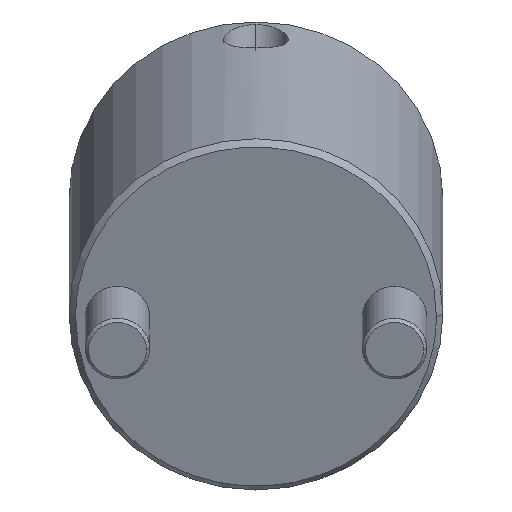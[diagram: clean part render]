
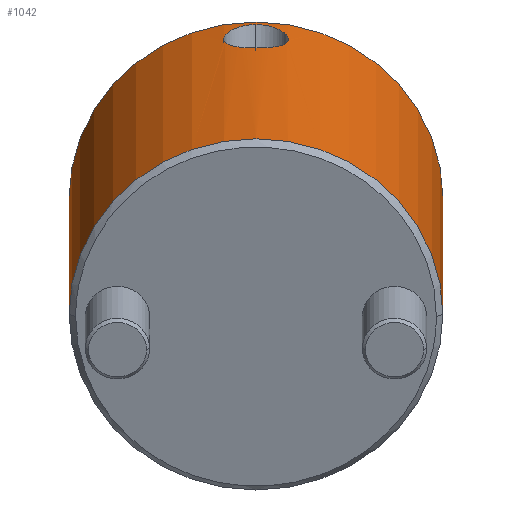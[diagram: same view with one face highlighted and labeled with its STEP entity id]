
A CAD part, front view. The second image highlights one B-rep face of the part: STEP entity #1042.
In plain terms, the highlighted cylindrical face has radius 29 mm (diameter 58 mm), a partial arc.
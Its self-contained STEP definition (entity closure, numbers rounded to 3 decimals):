
#772=CARTESIAN_POINT('Vertex',(0.,29.,1.)) ;
#775=CARTESIAN_POINT('Axis2P3D Location',(0.,0.,1.)) ;
#779=CARTESIAN_POINT('Vertex',(0.,-29.,1.)) ;
#931=CARTESIAN_POINT('Axis2P3D Location',(0.,0.,-2.75)) ;
#936=CARTESIAN_POINT('Line Origine',(0.,29.,-2.75)) ;
#940=CARTESIAN_POINT('Vertex',(0.,29.,54.)) ;
#943=CARTESIAN_POINT('Axis2P3D Location',(0.,0.,54.)) ;
#947=CARTESIAN_POINT('Vertex',(0.,-29.,54.)) ;
#950=CARTESIAN_POINT('Line Origine',(0.,-29.,-2.75)) ;
#962=CARTESIAN_POINT('Control Point',(29.,0.,52.84)) ;
#963=CARTESIAN_POINT('Control Point',(29.,0.41,52.84)) ;
#964=CARTESIAN_POINT('Control Point',(28.993,0.818,52.794)) ;
#965=CARTESIAN_POINT('Control Point',(28.978,1.227,52.698)) ;
#966=CARTESIAN_POINT('Control Point',(28.941,1.922,52.449)) ;
#967=CARTESIAN_POINT('Control Point',(28.888,2.571,52.061)) ;
#968=CARTESIAN_POINT('Control Point',(28.862,2.839,51.869)) ;
#969=CARTESIAN_POINT('Control Point',(28.799,3.437,51.363)) ;
#970=CARTESIAN_POINT('Control Point',(28.732,3.948,50.737)) ;
#971=CARTESIAN_POINT('Control Point',(28.695,4.202,50.348)) ;
#972=CARTESIAN_POINT('Control Point',(28.645,4.527,49.719)) ;
#973=CARTESIAN_POINT('Control Point',(28.608,4.752,49.055)) ;
#974=CARTESIAN_POINT('Control Point',(28.597,4.816,48.831)) ;
#975=CARTESIAN_POINT('Control Point',(28.575,4.947,48.265)) ;
#976=CARTESIAN_POINT('Control Point',(28.565,5.007,47.682)) ;
#977=CARTESIAN_POINT('Control Point',(28.563,5.016,47.333)) ;
#978=CARTESIAN_POINT('Control Point',(28.569,4.98,46.642)) ;
#979=CARTESIAN_POINT('Control Point',(28.593,4.841,45.975)) ;
#980=CARTESIAN_POINT('Control Point',(28.609,4.747,45.653)) ;
#981=CARTESIAN_POINT('Control Point',(28.642,4.548,45.132)) ;
#982=CARTESIAN_POINT('Control Point',(28.682,4.285,44.647)) ;
#983=CARTESIAN_POINT('Control Point',(28.699,4.17,44.461)) ;
#984=CARTESIAN_POINT('Control Point',(28.735,3.921,44.101)) ;
#985=CARTESIAN_POINT('Control Point',(28.772,3.633,43.771)) ;
#986=CARTESIAN_POINT('Control Point',(28.791,3.481,43.613)) ;
#987=CARTESIAN_POINT('Control Point',(28.838,3.081,43.245)) ;
#988=CARTESIAN_POINT('Control Point',(28.882,2.635,42.935)) ;
#989=CARTESIAN_POINT('Control Point',(28.907,2.351,42.77)) ;
#990=CARTESIAN_POINT('Control Point',(28.953,1.732,42.478)) ;
#991=CARTESIAN_POINT('Control Point',(28.983,1.071,42.295)) ;
#992=CARTESIAN_POINT('Control Point',(28.994,0.716,42.231)) ;
#993=CARTESIAN_POINT('Control Point',(29.,0.359,42.199)) ;
#994=CARTESIAN_POINT('Control Point',(29.,0.,42.199)) ;
#995=CARTESIAN_POINT('Vertex',(29.,0.,52.84)) ;
#997=CARTESIAN_POINT('Vertex',(29.,0.,42.199)) ;
#1001=CARTESIAN_POINT('Control Point',(29.,0.,42.199)) ;
#1002=CARTESIAN_POINT('Control Point',(29.,-0.436,42.199)) ;
#1003=CARTESIAN_POINT('Control Point',(28.992,-0.867,42.246)) ;
#1004=CARTESIAN_POINT('Control Point',(28.976,-1.295,42.34)) ;
#1005=CARTESIAN_POINT('Control Point',(28.941,-1.914,42.55)) ;
#1006=CARTESIAN_POINT('Control Point',(28.894,-2.488,42.857)) ;
#1007=CARTESIAN_POINT('Control Point',(28.877,-2.675,42.971)) ;
#1008=CARTESIAN_POINT('Control Point',(28.842,-3.033,43.216)) ;
#1009=CARTESIAN_POINT('Control Point',(28.805,-3.362,43.5)) ;
#1010=CARTESIAN_POINT('Control Point',(28.786,-3.519,43.651)) ;
#1011=CARTESIAN_POINT('Control Point',(28.749,-3.816,43.971)) ;
#1012=CARTESIAN_POINT('Control Point',(28.712,-4.078,44.322)) ;
#1013=CARTESIAN_POINT('Control Point',(28.695,-4.199,44.506)) ;
#1014=CARTESIAN_POINT('Control Point',(28.662,-4.421,44.885)) ;
#1015=CARTESIAN_POINT('Control Point',(28.633,-4.603,45.289)) ;
#1016=CARTESIAN_POINT('Control Point',(28.619,-4.683,45.497)) ;
#1017=CARTESIAN_POINT('Control Point',(28.596,-4.822,45.92)) ;
#1018=CARTESIAN_POINT('Control Point',(28.58,-4.917,46.36)) ;
#1019=CARTESIAN_POINT('Control Point',(28.574,-4.953,46.587)) ;
#1020=CARTESIAN_POINT('Control Point',(28.561,-5.028,47.275)) ;
#1021=CARTESIAN_POINT('Control Point',(28.566,-4.996,47.975)) ;
#1022=CARTESIAN_POINT('Control Point',(28.579,-4.925,48.442)) ;
#1023=CARTESIAN_POINT('Control Point',(28.618,-4.698,49.344)) ;
#1024=CARTESIAN_POINT('Control Point',(28.682,-4.293,50.19)) ;
#1025=CARTESIAN_POINT('Control Point',(28.718,-4.047,50.593)) ;
#1026=CARTESIAN_POINT('Control Point',(28.775,-3.624,51.146)) ;
#1027=CARTESIAN_POINT('Control Point',(28.831,-3.134,51.614)) ;
#1028=CARTESIAN_POINT('Control Point',(28.849,-2.966,51.757)) ;
#1029=CARTESIAN_POINT('Control Point',(28.883,-2.617,52.025)) ;
#1030=CARTESIAN_POINT('Control Point',(28.914,-2.245,52.25)) ;
#1031=CARTESIAN_POINT('Control Point',(28.928,-2.056,52.352)) ;
#1032=CARTESIAN_POINT('Control Point',(28.962,-1.546,52.588)) ;
#1033=CARTESIAN_POINT('Control Point',(28.985,-1.013,52.743)) ;
#1034=CARTESIAN_POINT('Control Point',(28.995,-0.674,52.809)) ;
#1035=CARTESIAN_POINT('Control Point',(29.,-0.337,52.84)) ;
#1036=CARTESIAN_POINT('Control Point',(29.,0.,52.84)) ;
#776=DIRECTION('Axis2P3D Direction',(0.,0.,1.)) ;
#932=DIRECTION('Axis2P3D Direction',(0.,-0.,1.)) ;
#933=DIRECTION('Axis2P3D XDirection',(0.,-1.,0.)) ;
#937=DIRECTION('Vector Direction',(0.,0.,1.)) ;
#944=DIRECTION('Axis2P3D Direction',(0.,-0.,1.)) ;
#951=DIRECTION('Vector Direction',(0.,0.,1.)) ;
#777=AXIS2_PLACEMENT_3D('Circle Axis2P3D',#775,#776,$) ;
#934=AXIS2_PLACEMENT_3D('Cylinder Axis2P3D',#931,#932,#933) ;
#945=AXIS2_PLACEMENT_3D('Circle Axis2P3D',#943,#944,$) ;
#956=ORIENTED_EDGE('',*,*,#942,.F.) ;
#957=ORIENTED_EDGE('',*,*,#949,.T.) ;
#958=ORIENTED_EDGE('',*,*,#954,.T.) ;
#959=ORIENTED_EDGE('',*,*,#781,.F.) ;
#1039=ORIENTED_EDGE('',*,*,#999,.T.) ;
#1040=ORIENTED_EDGE('',*,*,#1037,.T.) ;
#1041=FACE_BOUND('',#1038,.T.) ;
#938=VECTOR('Line Direction',#937,1.) ;
#952=VECTOR('Line Direction',#951,1.) ;
#1042=ADVANCED_FACE('MANIFOLD_SOLID_BREP #1146',(#960,#1041),#935,.T.) ;
#961=B_SPLINE_CURVE_WITH_KNOTS('',5,(#962,#963,#964,#965,#966,#967,#968,#969,#970,#971,#972,#973,#974,#975,#976,#977,#978,#979,#980,#981,#982,#983,#984,#985,#986,#987,#988,#989,#990,#991,#992,#993,#994),.UNSPECIFIED.,.F.,.U.,(6,3,3,3,3,3,3,3,3,3,6),(0.,3.082,5.432,8.625,10.233,12.595,14.944,16.512,18.076,20.419,22.998),.UNSPECIFIED.) ;
#1000=B_SPLINE_CURVE_WITH_KNOTS('',5,(#1001,#1002,#1003,#1004,#1005,#1006,#1007,#1008,#1009,#1010,#1011,#1012,#1013,#1014,#1015,#1016,#1017,#1018,#1019,#1020,#1021,#1022,#1023,#1024,#1025,#1026,#1027,#1028,#1029,#1030,#1031,#1032,#1033,#1034,#1035,#1036),.UNSPECIFIED.,.F.,.U.,(6,3,3,3,3,3,3,3,3,3,3,6),(0.,3.127,4.689,6.255,7.819,9.384,10.947,14.13,17.316,18.889,20.449,22.99),.UNSPECIFIED.) ;
#778=CIRCLE('generated circle',#777,29.) ;
#946=CIRCLE('generated circle',#945,29.) ;
#935=CYLINDRICAL_SURFACE('generated cylinder',#934,29.) ;
#781=EDGE_CURVE('',#773,#780,#778,.F.) ;
#942=EDGE_CURVE('',#941,#773,#939,.F.) ;
#949=EDGE_CURVE('',#941,#948,#946,.F.) ;
#954=EDGE_CURVE('',#948,#780,#953,.F.) ;
#999=EDGE_CURVE('',#996,#998,#961,.T.) ;
#1037=EDGE_CURVE('',#998,#996,#1000,.T.) ;
#955=EDGE_LOOP('',(#956,#957,#958,#959)) ;
#1038=EDGE_LOOP('',(#1039,#1040)) ;
#960=FACE_OUTER_BOUND('',#955,.T.) ;
#939=LINE('Line',#936,#938) ;
#953=LINE('Line',#950,#952) ;
#773=VERTEX_POINT('',#772) ;
#780=VERTEX_POINT('',#779) ;
#941=VERTEX_POINT('',#940) ;
#948=VERTEX_POINT('',#947) ;
#996=VERTEX_POINT('',#995) ;
#998=VERTEX_POINT('',#997) ;
